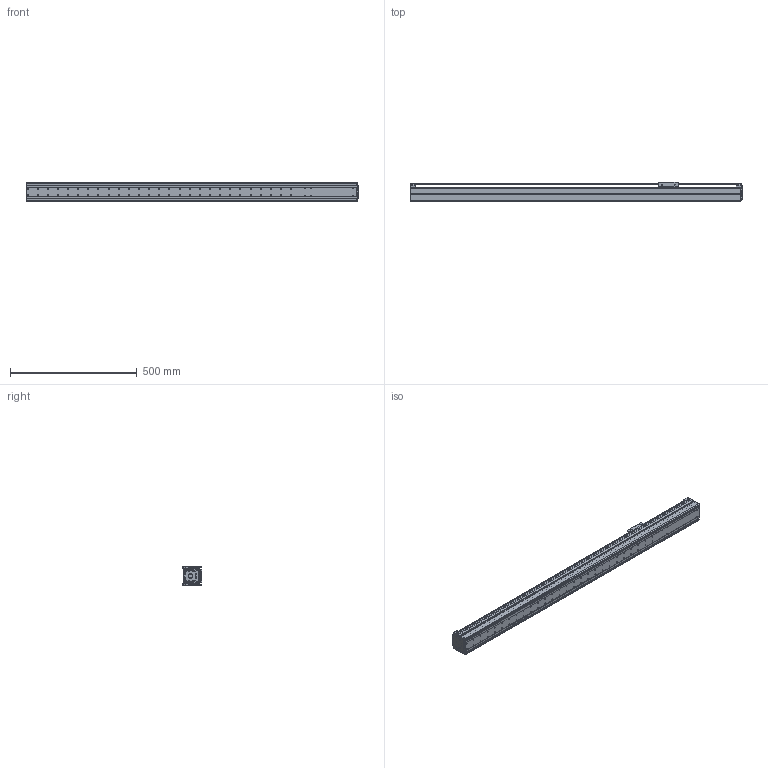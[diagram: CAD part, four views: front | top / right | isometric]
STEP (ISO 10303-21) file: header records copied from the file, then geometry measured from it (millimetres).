
FILE_DESCRIPTION((''),'2;1');
FILE_NAME('BE10E-ST-S_B-95_IGS_PRT','2017-06-17T',(' '),(''),'PRO/ENGINEER BY PARAMETRIC TECHNOLOGY CORPORATION, 2015030','PRO/ENGINEER BY PARAMETRIC TECHNOLOGY CORPORATION, 2015030','');
FILE_SCHEMA(('CONFIG_CONTROL_DESIGN'));
Length unit declared in the file: millimetre
Products named in the file (1): BE10E-ST-S_B-95_IGS_PRT
Bounding box: 1310 x 75 x 78 mm (x, y, z)
Volume: 1454962.7 mm3; surface area: 971854.4 mm2
Topology: 3 solids, 93 shells, 1263 faces, 3399 edges, 2226 vertices
Faces by surface type: cylinder 662, plane 448, torus 64, sphere 42, cone 38, bspline 9
Entity records: 41299 total; most frequent: CARTESIAN_POINT 8743, DIRECTION 7076, ORIENTED_EDGE 6396, EDGE_CURVE 3375, AXIS2_PLACEMENT_3D 2710, VERTEX_POINT 2226, VECTOR 1656, LINE 1656
